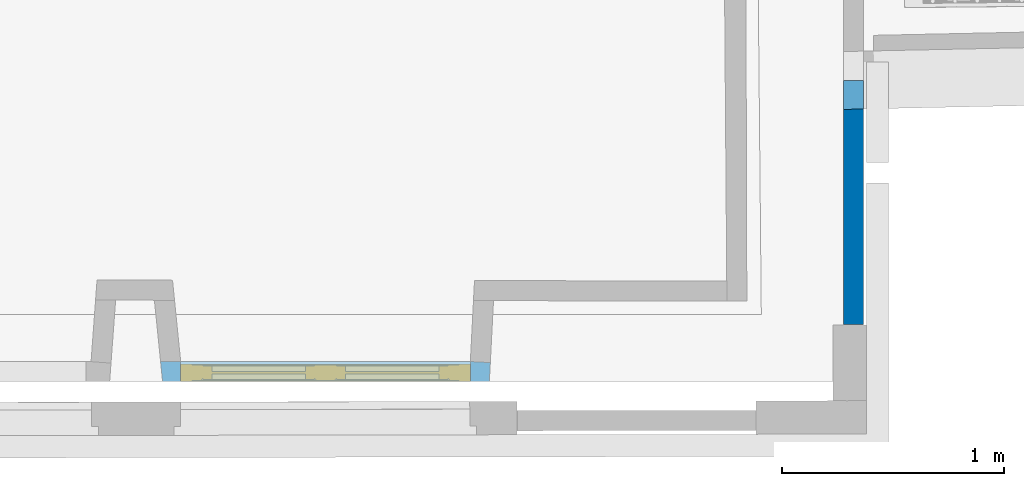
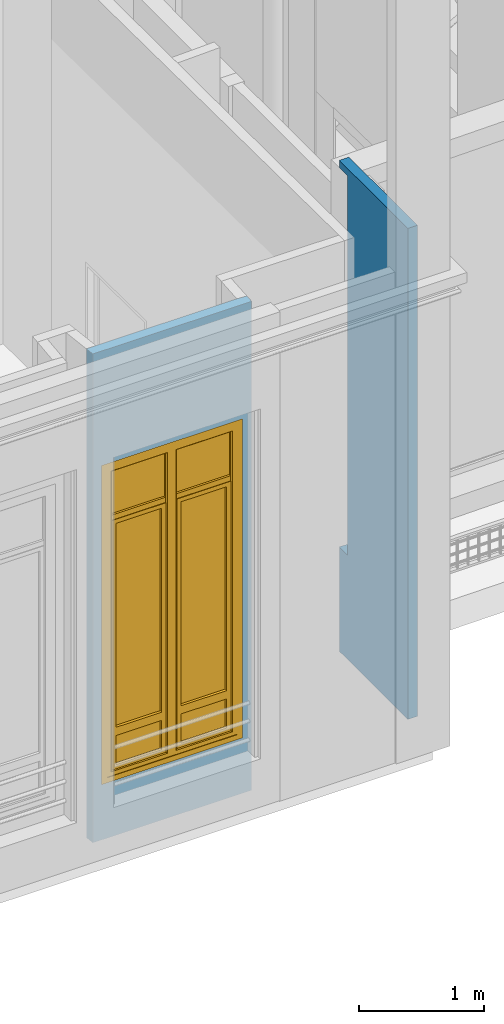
# One storey, part 54 of 97: 1 wall, 1 window, 1 opening, plus 1 element that does not belong to this part.
"""IFC2X3 building model written with IfcOpenShell, lengths in centimetres."""

from ifc_helpers import new_model, entity, si_unit, converted_unit, direction, frame, origin, origin_with_axes, place, context, subcontext, project, spatial, polyline, outline, extrude, faceted_brep, shape, source, transform, mapped, material, material_list, layer, layer_set, layer_usage, type_object, element, fill, save


model = new_model("IFC2X3")

# Units and contexts
model_context = context("Model", 3, precision=0.0001, world=origin(), true_north=direction((0.225632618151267, 0.974212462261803, 0.0)))
body_context = subcontext(model_context, "Body", "Model", "MODEL_VIEW")
footprint_context = subcontext(model_context, "FootPrint", "Model", "MODEL_VIEW")
profile_context = subcontext(model_context, "Profile", "Model", "MODEL_VIEW")
ifc_project = project(units=[si_unit("LENGTHUNIT", "METRE", prefix="CENTI"), si_unit("AREAUNIT", "SQUARE_METRE", prefix="CENTI"), si_unit("VOLUMEUNIT", "CUBIC_METRE", prefix="CENTI"), converted_unit("PLANEANGLEUNIT", "DEGREE", entity("IfcRatioMeasure", 0.0174532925), si_unit("PLANEANGLEUNIT", "RADIAN"), dimensions=[0, 0, 0, 0, 0, 0, 0])], contexts=[model_context])

# Site, building, storey
site_placement = place(None, origin_with_axes())
site = spatial("IfcSite", under=ifc_project, at=site_placement, Name="Default Site", CompositionType="ELEMENT")
building_placement = place(site_placement, origin_with_axes())
building = spatial("IfcBuilding", under=site, at=building_placement, Name="Default Building", CompositionType="ELEMENT")
storey_placement = place(building_placement, origin_with_axes())
storey = spatial("IfcBuildingStorey", under=building, at=storey_placement, Name="Rez-de-chaussée", CompositionType="ELEMENT", Elevation=0.0)

# Wall
ifc_material_1 = material(Name="<aucun>")
ifc_layer = layer(ifc_material_1, 9.0)
ifc_layer_set = layer_set([ifc_layer], Name="default")
ifc_layer_usage_1 = layer_usage(ifc_layer_set, "AXIS2", "POSITIVE", -4.5)
wall_type_1 = type_object("IfcWallType", Name="default 90", PredefinedType="NOTDEFINED", material=ifc_layer_set)
wall_1_placement = place(storey_placement, frame((889.048536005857, -999.633742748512, -1.99999999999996), z_axis=(0.0, 0.0, 1.0), x_axis=(-0.000205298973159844, 0.999999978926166, 0.0)))
element("IfcWall", 1, at=wall_1_placement, inside=storey, type_object=wall_type_1, material=ifc_layer_usage_1, Name="Enveloppe 531419", context=body_context, shape_type="Brep", body=[
    faceted_brep([(109.903833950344, 4.50000631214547, 4.47034409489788e-08), (96.8065474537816, 4.50000631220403, 4.47034409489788e-08), (96.8065474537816, 4.50000631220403, 102.0), (109.903833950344, 4.50000631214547, 102.0), (96.8065474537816, 4.50002488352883, 4.47034409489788e-08), (0.0959588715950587, 4.50002488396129, 4.47034409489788e-08), (0.0959588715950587, 4.50002488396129, 479.80818939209), (96.8065474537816, 4.50002488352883, 479.80818939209), (96.8065474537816, 4.50002488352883, 472.795345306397), (96.8065474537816, 4.50002488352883, 102.0), (109.903833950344, 4.50000631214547, 472.795345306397), (96.8065474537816, 4.50000631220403, 472.795345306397), (96.8065474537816, 4.50000631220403, 479.80818939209), (109.903833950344, 4.50000631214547, 479.80818939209), (96.9954346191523, -4.50002934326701, 4.47034409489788e-08), (109.903893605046, -4.50002934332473, 4.47034409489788e-08), (109.903893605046, -4.50002934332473, 102.0), (96.9954346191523, -4.50002934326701, 102.0), (0.0960185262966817, -4.49997241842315, 4.47034409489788e-08), (96.9954346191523, -4.49997241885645, 4.47034409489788e-08), (96.9954346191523, -4.49997241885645, 102.0), (96.9954346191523, -4.49997241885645, 472.795345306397), (96.9954346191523, -4.49997241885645, 479.80818939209), (0.0960185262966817, -4.49997241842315, 479.80818939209), (96.9954346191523, -4.50002934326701, 472.795345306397), (109.903893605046, -4.50002934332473, 472.795345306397), (109.903893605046, -4.50002934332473, 479.80818939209), (99.2259835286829, -4.50002934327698, 479.80818939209), (96.9954346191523, -4.50002934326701, 479.80818939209), (109.903893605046, -4.50000914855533, 4.47034409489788e-08), (96.8224139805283, 3.7440439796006, 4.47034409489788e-08), (109.903853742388, 3.66735324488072, 4.47034409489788e-08), (109.903853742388, 3.66735324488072, 102.0), (96.8224139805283, 3.7440439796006, 102.0), (109.903893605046, -4.50000914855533, 102.0), (109.903893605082, 3.66735324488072, 4.47034409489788e-08), (109.903893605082, 3.66735324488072, 102.0), (109.903853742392, 4.50000631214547, 4.47034409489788e-08), (109.903853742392, 4.50000631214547, 102.0), (0.0959886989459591, 3.53119272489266e-05, 4.47034409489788e-08), (0.1212877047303, 4.31054275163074, 4.47034409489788e-08), (96.8224139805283, 3.7440439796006, 479.80818939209), (0.1212877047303, 4.31054275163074, 479.80818939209), (0.0959886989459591, 3.53119272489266e-05, 479.80818939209), (0.0959886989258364, -4.49997241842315, 4.47034409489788e-08), (0.0959886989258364, -4.49997241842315, 479.80818939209), (96.8224139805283, 3.7440439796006, 472.795345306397), (96.9954319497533, -4.50002939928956, 472.795345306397), (96.9954319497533, -4.50002939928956, 102.0), (0.0960153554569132, 4.31064330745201, 4.47034409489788e-08), (0.0959588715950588, 4.50004304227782, 4.47034409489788e-08), (0.0959588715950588, 4.50004304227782, 479.80818939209), (0.0960153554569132, 4.31064330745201, 479.80818939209), (0.0959588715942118, 4.31064330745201, 4.47034409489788e-08), (0.0959588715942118, 4.31064330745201, 479.80818939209), (96.8224131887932, 3.74404396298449, 472.795345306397), (96.8224131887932, 3.74404396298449, 102.0), (0.0960153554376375, 3.53119272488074e-05, 4.47034409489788e-08), (0.0960153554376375, 3.53119272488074e-05, 479.80818939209), (109.903893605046, -4.50000914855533, 472.795345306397), (109.903853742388, 3.66735324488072, 472.795345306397), (109.903853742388, 3.66735324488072, 479.80818939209), (109.903893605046, -4.50000914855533, 479.80818939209), (109.903893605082, 3.66735324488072, 472.795345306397), (109.903893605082, 3.66735324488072, 479.80818939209), (109.903893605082, 3.51371631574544, 479.80818939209), (109.903853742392, 4.50000631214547, 472.795345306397), (109.903853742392, 4.50000631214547, 479.80818939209)], [[[0, 1, 2, 3]], [[4, 5, 6, 7, 8, 9]], [[10, 11, 12, 13]], [[14, 15, 16, 17]], [[18, 19, 20, 21, 22, 23]], [[24, 25, 26, 27, 28]], [[29, 14, 30, 31]], [[32, 33, 17, 34]], [[29, 35, 36, 34]], [[4, 0, 31, 30]], [[33, 32, 3, 9]], [[31, 37, 38, 32]], [[18, 39, 40, 30, 14]], [[28, 41, 42, 43, 23]], [[39, 44, 45, 43]], [[46, 47, 48, 33]], [[4, 30, 40, 49, 50]], [[51, 52, 42, 41, 7]], [[50, 53, 54, 51]], [[8, 55, 56, 9]], [[40, 39, 49]], [[52, 43, 42]], [[49, 57, 58, 52]], [[59, 24, 46, 60]], [[61, 41, 28, 62]], [[59, 63, 64, 65, 62]], [[8, 10, 60, 46]], [[41, 61, 13, 7]], [[60, 66, 67, 61]]]),
])

# Wall, opening, window
ifc_layer_usage_2 = layer_usage(ifc_layer_set, "AXIS2", "POSITIVE", -4.5)
wall_type_2 = type_object("IfcWallType", Name="default 90", PredefinedType="NOTDEFINED", material=ifc_layer_set)
wall_2_placement = place(storey_placement, frame((582.599325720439, -1020.69324960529, 0.0128503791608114), z_axis=(0.0, 0.0, 1.0), x_axis=(0.999999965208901, 0.000263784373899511, 0.0)))
wall_2 = element("IfcWallStandardCase", 2, at=wall_2_placement, inside=storey, type_object=wall_type_2, material=ifc_layer_usage_2, Name="Enveloppe 767132", context=body_context, shape_type="SweptSolid", body=[
    extrude(outline(polyline([(-4.97437622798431, 4.49999999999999), (-4.07086216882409, -4.50000000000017), (142.810565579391, -4.50000000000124), (143.251378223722, 4.03583522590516), (134.263355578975, 4.49999999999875), (-4.97437622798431, 4.49999999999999)])), origin_with_axes(), (0.0, 0.0, 1.0), 477.795358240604),
])
opening_placement = place(wall_2_placement, frame((4.07086216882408, 0.0, 54.0313409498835), z_axis=(0.0, 0.0, 1.0), x_axis=(1.0, -9.59209925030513e-15, 0.0)))
cartesian_point_1 = entity("IfcCartesianPoint", [0.0, 0.0, 312.0])
cartesian_point_2 = entity("IfcCartesianPoint", [130.192493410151, 4.49999999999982])
opening = element("IfcOpeningElement", 3, at=opening_placement, cuts=wall_2, Name="4294966462_11", ObjectType="Opening", shapes=[
    shape(body_context, "Body", "SweptSolid", [extrude(outline(polyline([(0.0, 312.0), (0.0, -1.11022302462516e-14), (130.192493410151, -1.11022302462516e-14), (130.192493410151, 312.0), (0.0, 312.0)])), frame((0.0, 14.5, 0.0), z_axis=(0.0, -1.0, 0.0), x_axis=(1.0, 0.0, 0.0)), (0.0, 0.0, 1.0), 29.0)]),
    shape(profile_context, "Profile", "GeometricCurveSet", [entity("IfcGeometricCurveSet", [entity("IfcPolyline", [cartesian_point_1, entity("IfcCartesianPoint", [0.0, 0.0, -1.11022302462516e-14]), entity("IfcCartesianPoint", [130.192493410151, -1.77635683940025e-13, -1.11022302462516e-14]), entity("IfcCartesianPoint", [130.192493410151, -1.77635683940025e-13, 312.0]), cartesian_point_1])])]),
    shape(footprint_context, "FootPrint", "GeometricCurveSet", [entity("IfcGeometricCurveSet", [entity("IfcPolyline", [cartesian_point_2, entity("IfcCartesianPoint", [0.0, 4.49999999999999]), entity("IfcCartesianPoint", [8.88178419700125e-14, -4.50000000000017]), entity("IfcCartesianPoint", [130.192493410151, -4.49999999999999]), cartesian_point_2])])]),
])
ifc_material_2 = material(Name="Transparent")
ifc_material_3 = material(Name="Blanc trafic")
ifc_material_4 = material(Name="Aluminium satiné")
ifc_material_5 = material(Name="Blanc trafic")
ifc_material_list = material_list([ifc_material_2, ifc_material_3, ifc_material_4, ifc_material_5])
window_style = type_object("IfcWindowStyle", Name="FN[R] 2VB[2V] MM", ConstructionType="NOTDEFINED", OperationType="NOTDEFINED", ParameterTakesPrecedence=False, Sizeable=False, material=ifc_material_list)
shared_shape = source(origin_with_axes(), body_context, "Body", "Brep", [
    faceted_brep([(-60.0962460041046, 306.99999332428, -3.99999991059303), (-60.0962460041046, 306.99999332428, 3.99999991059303), (-60.0962460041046, 5.00000007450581, 3.99999991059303), (-60.0962460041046, 5.00000007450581, -3.99999991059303), (-65.0962471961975, 311.999988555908, 3.99999991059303), (-65.0962471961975, 0.0, 3.99999991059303), (-65.0962471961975, 311.999988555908, -3.99999991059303), (-65.0962471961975, 0.0, -3.99999991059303), (60.0962460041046, 5.00000007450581, 3.99999991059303), (60.0962460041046, 5.00000007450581, -3.99999991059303), (65.0962471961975, 0.0, 3.99999991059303), (65.0962471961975, 0.0, -3.99999991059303), (60.0962460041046, 306.99999332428, 3.99999991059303), (60.0962460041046, 306.99999332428, -3.99999991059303), (65.0962471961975, 311.999988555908, 3.99999991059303), (65.0962471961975, 311.999988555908, -3.99999991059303)], [[[0, 1, 2, 3]], [[1, 4, 5, 2]], [[4, 6, 7, 5]], [[6, 0, 3, 7]], [[3, 2, 8, 9]], [[2, 5, 10, 8]], [[5, 7, 11, 10]], [[7, 3, 9, 11]], [[9, 8, 12, 13]], [[8, 10, 14, 12]], [[10, 11, 15, 14]], [[11, 9, 13, 15]], [[13, 12, 1, 0]], [[12, 14, 4, 1]], [[14, 15, 6, 4]], [[15, 13, 0, 6]]]),
    faceted_brep([(-56.0962438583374, 302.999997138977, -3.50000001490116), (-55.0962443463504, 301.999998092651, -2.50000050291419), (-55.0962443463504, 10.0000001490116, -2.50000050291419), (-56.0962438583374, 9.00000035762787, -3.50000001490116), (-55.0962448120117, 301.999998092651, -2.5000000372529), (-55.0962448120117, 301.999998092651, 3.50000001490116), (-55.0962448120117, 10.0000001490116, 3.50000001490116), (-55.0962448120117, 10.0000001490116, -2.5000000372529), (-60.0962460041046, 306.99999332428, 3.50000001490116), (-60.0962460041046, 5.00000007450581, 3.50000001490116), (-60.0962460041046, 306.99999332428, -3.50000001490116), (-60.0962460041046, 5.00000007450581, -3.50000001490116), (-55.0962448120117, 10.0000002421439, -2.50000013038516), (-5.00000007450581, 10.0000002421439, -2.50000013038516), (-3.99999991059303, 9.00000035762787, -3.50000001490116), (-5.00000007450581, 10.0000001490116, 3.50000001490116), (-5.00000007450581, 10.0000001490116, -2.5000000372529), (-3.33066907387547e-14, 5.00000007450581, 3.50000001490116), (-3.33066907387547e-14, 5.00000007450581, -3.50000001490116), (-4.99999998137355, 10.0000001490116, -2.49999994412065), (-4.99999998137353, 301.999998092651, -2.49999994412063), (-3.99999991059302, 302.999997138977, -3.50000001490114), (-5.00000007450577, 301.999998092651, 3.50000001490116), (-5.00000007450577, 301.999998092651, -2.5000000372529), (-1.11022302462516e-14, 306.99999332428, 3.50000001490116), (-5.00000007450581, 301.999998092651, 3.50000001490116), (-1.11022308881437e-14, 306.99999332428, -3.50000001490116), (-1.11022308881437e-14, 306.99999332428, 3.50000001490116), (-3.99999991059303, 302.999997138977, -3.50000001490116), (-1.11022302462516e-14, 306.99999332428, -3.50000001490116), (-5.00000007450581, 301.99999762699, -2.5000005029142), (-55.0962448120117, 301.99999762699, -2.5000005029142), (-5.00000007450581, 301.999998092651, -2.5000000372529)], [[[0, 1, 2, 3]], [[4, 5, 6, 7]], [[5, 8, 9, 6]], [[8, 10, 11, 9]], [[10, 0, 3, 11]], [[3, 12, 13, 14]], [[7, 6, 15, 16]], [[6, 9, 17, 15]], [[9, 11, 18, 17]], [[11, 3, 14, 18]], [[14, 19, 20, 21]], [[16, 15, 22, 23]], [[15, 17, 24, 25]], [[17, 18, 26, 27]], [[18, 14, 28, 29]], [[28, 30, 31, 0]], [[32, 25, 5, 4]], [[25, 24, 8, 5]], [[24, 29, 10, 8]], [[29, 28, 0, 10]]]),
    faceted_brep([(-5.00000007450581, 301.999998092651, -0.499999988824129), (-5.00000007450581, 258.949995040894, -0.499999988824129), (-55.0962448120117, 258.949995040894, -0.499999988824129), (-55.0962448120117, 301.999998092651, -0.499999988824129), (-55.0962448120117, 301.999998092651, 0.499999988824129), (-55.0962448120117, 258.949995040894, 0.499999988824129), (-5.00000007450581, 258.949995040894, 0.499999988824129), (-5.00000007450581, 301.999998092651, 0.499999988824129)], [[[0, 1, 2, 3]], [[4, 5, 6, 7]], [[3, 2, 5, 4]], [[2, 1, 6, 5]], [[1, 0, 7, 6]], [[0, 3, 4, 7]]]),
    faceted_brep([(-5.00000007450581, 253.949999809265, 2.5000000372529), (-5.00000007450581, 253.949999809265, -2.5000000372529), (-5.00000007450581, 258.949995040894, -2.5000000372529), (-5.00000007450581, 258.949995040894, 2.5000000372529), (-55.0962448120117, 258.949995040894, 2.5000000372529), (-55.0962448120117, 258.949995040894, -2.5000000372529), (-55.0962448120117, 253.949999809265, -2.5000000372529), (-55.0962448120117, 253.949999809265, 2.5000000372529)], [[[0, 1, 2, 3]], [[4, 5, 6, 7]], [[3, 2, 5, 4]], [[2, 1, 6, 5]], [[1, 0, 7, 6]], [[0, 3, 4, 7]]]),
    faceted_brep([(-51.096248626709, 249.950003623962, -2.99999993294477), (-51.096248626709, 249.950003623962, 2.99999993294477), (-51.096248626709, 50.5924999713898, 2.99999993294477), (-51.096248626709, 50.5924999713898, -2.99999993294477), (-55.0962448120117, 253.949999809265, 2.99999993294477), (-55.0962448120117, 46.5925008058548, 2.99999993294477), (-55.0962448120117, 253.949999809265, -2.99999993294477), (-55.0962448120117, 46.5925008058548, -2.99999993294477), (-9.00000035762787, 50.5924999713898, 2.99999993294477), (-9.00000035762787, 50.5924999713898, -2.99999993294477), (-5.00000007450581, 46.5925008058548, 2.99999993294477), (-5.00000007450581, 46.5925008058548, -2.99999993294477), (-9.00000035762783, 249.950003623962, 2.99999993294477), (-9.00000035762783, 249.950003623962, -2.99999993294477), (-5.00000007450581, 253.949999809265, 2.99999993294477), (-9.00000035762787, 249.950003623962, 2.99999993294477), (-5.00000007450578, 253.949999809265, -2.99999993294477), (-5.00000007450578, 253.949999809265, 2.99999993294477), (-9.00000035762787, 249.950003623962, -2.99999993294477), (-5.00000007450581, 253.949999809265, -2.99999993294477)], [[[0, 1, 2, 3]], [[1, 4, 5, 2]], [[4, 6, 7, 5]], [[6, 0, 3, 7]], [[3, 2, 8, 9]], [[2, 5, 10, 8]], [[5, 7, 11, 10]], [[7, 3, 9, 11]], [[9, 8, 12, 13]], [[8, 10, 14, 15]], [[10, 11, 16, 17]], [[11, 9, 18, 19]], [[18, 15, 1, 0]], [[15, 14, 4, 1]], [[14, 19, 6, 4]], [[19, 18, 0, 6]]]),
    faceted_brep([(-9.00000035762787, 249.950003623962, -0.499999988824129), (-9.00000035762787, 50.5924999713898, -0.499999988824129), (-51.096248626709, 50.5924999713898, -0.499999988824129), (-51.096248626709, 249.950003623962, -0.499999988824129), (-51.096248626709, 249.950003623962, 0.499999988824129), (-51.096248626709, 50.5924999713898, 0.499999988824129), (-9.00000035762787, 50.5924999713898, 0.499999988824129), (-9.00000035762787, 249.950003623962, 0.499999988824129), (-9.00000035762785, 249.950003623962, -0.499999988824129), (-9.00000035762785, 249.950003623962, 0.499999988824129)], [[[0, 1, 2, 3]], [[4, 5, 6, 7]], [[3, 2, 5, 4]], [[2, 1, 6, 5]], [[1, 8, 9, 6]], [[0, 3, 4, 7]]]),
    faceted_brep([(-51.096248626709, 42.5924986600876, -2.99999993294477), (-51.096248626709, 42.5924986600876, 2.99999993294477), (-51.096248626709, 14.0000000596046, 2.99999993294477), (-51.096248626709, 14.0000000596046, -2.99999993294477), (-55.0962448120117, 46.5925008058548, 2.99999993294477), (-55.0962448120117, 10.0000001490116, 2.99999993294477), (-55.0962448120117, 46.5925008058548, -2.99999993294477), (-55.0962448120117, 10.0000001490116, -2.99999993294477), (-9.00000035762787, 14.0000000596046, 2.99999993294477), (-9.00000035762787, 14.0000000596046, -2.99999993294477), (-5.00000007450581, 10.0000001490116, 2.99999993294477), (-5.00000007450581, 10.0000001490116, -2.99999993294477), (-9.00000035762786, 42.5924986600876, 2.99999993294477), (-9.00000035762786, 42.5924986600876, -2.99999993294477), (-5.00000007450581, 46.5925008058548, 2.99999993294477), (-9.00000035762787, 42.5924986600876, 2.99999993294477), (-5.00000007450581, 46.5925008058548, -2.99999993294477), (-9.00000035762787, 42.5924986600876, -2.99999993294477)], [[[0, 1, 2, 3]], [[1, 4, 5, 2]], [[4, 6, 7, 5]], [[6, 0, 3, 7]], [[3, 2, 8, 9]], [[2, 5, 10, 8]], [[5, 7, 11, 10]], [[7, 3, 9, 11]], [[9, 8, 12, 13]], [[8, 10, 14, 15]], [[10, 11, 16, 14]], [[11, 9, 17, 16]], [[17, 15, 1, 0]], [[15, 14, 4, 1]], [[14, 16, 6, 4]], [[16, 17, 0, 6]]]),
    faceted_brep([(-9.00000035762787, 42.5924986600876, -0.499999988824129), (-9.00000035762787, 14.0000000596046, -0.499999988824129), (-51.096248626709, 14.0000000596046, -0.499999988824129), (-51.096248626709, 42.5924986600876, -0.499999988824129), (-51.096248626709, 42.5924986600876, 0.499999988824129), (-51.096248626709, 14.0000000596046, 0.499999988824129), (-9.00000035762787, 14.0000000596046, 0.499999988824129), (-9.00000035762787, 42.5924986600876, 0.499999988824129)], [[[0, 1, 2, 3]], [[4, 5, 6, 7]], [[3, 2, 5, 4]], [[2, 1, 6, 5]], [[1, 0, 7, 6]], [[0, 3, 4, 7]]]),
    faceted_brep([(3.99999991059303, 302.999997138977, -3.50000001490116), (4.99999998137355, 301.999998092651, -2.49999994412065), (4.99999998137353, 10.0000001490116, -2.49999994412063), (3.99999991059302, 9.00000035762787, -3.50000001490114), (5.00000007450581, 301.999998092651, -2.5000000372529), (5.00000007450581, 301.999998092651, 3.50000001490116), (5.00000007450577, 10.0000001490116, 3.50000001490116), (5.00000007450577, 10.0000001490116, -2.5000000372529), (-1.11022302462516e-14, 306.99999332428, 3.50000001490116), (-3.33066907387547e-14, 5.00000007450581, 3.50000001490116), (5.00000007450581, 10.0000001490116, 3.50000001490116), (-1.11022302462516e-14, 306.99999332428, -3.50000001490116), (-3.33066900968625e-14, 5.00000007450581, -3.50000001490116), (-3.33066900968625e-14, 5.00000007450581, 3.50000001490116), (3.99999991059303, 9.00000035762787, -3.50000001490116), (-3.33066907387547e-14, 5.00000007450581, -3.50000001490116), (5.00000007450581, 10.0000002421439, -2.50000013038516), (55.0962448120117, 10.0000002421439, -2.50000013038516), (56.0962438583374, 9.00000035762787, -3.50000001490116), (5.00000007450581, 10.0000001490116, -2.5000000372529), (55.0962448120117, 10.0000001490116, 3.50000001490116), (55.0962448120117, 10.0000001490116, -2.5000000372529), (60.0962460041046, 5.00000007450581, 3.50000001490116), (60.0962460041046, 5.00000007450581, -3.50000001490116), (55.0962443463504, 10.0000001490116, -2.50000050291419), (55.0962443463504, 301.999998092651, -2.50000050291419), (56.0962438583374, 302.999997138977, -3.50000001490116), (55.0962448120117, 301.999998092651, 3.50000001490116), (55.0962448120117, 301.999998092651, -2.5000000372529), (60.0962460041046, 306.99999332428, 3.50000001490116), (60.0962460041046, 306.99999332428, -3.50000001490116), (55.0962448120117, 301.99999762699, -2.5000005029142), (5.00000007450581, 301.99999762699, -2.50000050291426), (3.99999991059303, 302.999997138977, -3.50000001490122)], [[[0, 1, 2, 3]], [[4, 5, 6, 7]], [[5, 8, 9, 10]], [[8, 11, 12, 13]], [[11, 0, 14, 15]], [[14, 16, 17, 18]], [[19, 10, 20, 21]], [[10, 9, 22, 20]], [[9, 15, 23, 22]], [[15, 14, 18, 23]], [[18, 24, 25, 26]], [[21, 20, 27, 28]], [[20, 22, 29, 27]], [[22, 23, 30, 29]], [[23, 18, 26, 30]], [[26, 31, 32, 33]], [[28, 27, 5, 4]], [[27, 29, 8, 5]], [[29, 30, 11, 8]], [[30, 26, 0, 11]]]),
    faceted_brep([(4.50000017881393, 158.000004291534, 3.50000001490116), (4.50000017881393, 153.999996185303, 3.50000001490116), (0.499999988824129, 153.999996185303, 3.50000001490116), (0.499999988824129, 158.000004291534, 3.50000001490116), (0.499999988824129, 158.000004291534, 4.30000014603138), (0.499999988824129, 153.999996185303, 4.30000014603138), (4.50000017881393, 153.999996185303, 4.30000014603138), (4.50000017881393, 158.000004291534, 4.30000014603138)], [[[0, 1, 2, 3]], [[4, 5, 6, 7]], [[3, 2, 5, 4]], [[2, 1, 6, 5]], [[1, 0, 7, 6]], [[0, 3, 4, 7]]]),
    faceted_brep([(3.24999988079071, 156.500005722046, 4.30000014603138), (3.24999988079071, 155.499994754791, 4.30000014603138), (1.75000000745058, 155.499994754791, 4.30000014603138), (1.75000000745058, 156.500005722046, 4.30000014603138), (1.75000000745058, 156.500005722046, 8.29999968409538), (1.75000000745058, 155.500000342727, 7.29999430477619), (3.24999988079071, 155.500000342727, 7.29999430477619), (3.24999988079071, 156.500005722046, 8.29999968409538), (1.75000000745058, 155.499994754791, 7.29999989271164), (3.24999988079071, 155.499994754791, 7.29999989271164)], [[[0, 1, 2, 3]], [[4, 5, 6, 7]], [[3, 2, 8, 4]], [[2, 1, 9, 8]], [[1, 0, 7, 9]], [[0, 3, 4, 7]]]),
    faceted_brep([(3.24999988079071, 156.500005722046, 8.29999968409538), (3.24999988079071, 155.500000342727, 7.29999430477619), (1.75000000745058, 155.500000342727, 7.29999430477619), (1.75000000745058, 156.500005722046, 8.29999968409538), (1.75000000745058, 143.499994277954, 8.29999968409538), (1.75000000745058, 143.499994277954, 7.29999989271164), (3.24999988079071, 143.499994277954, 7.29999989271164), (3.24999988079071, 143.499994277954, 8.29999968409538), (1.75000000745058, 155.499994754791, 7.29999989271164), (3.24999988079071, 155.499994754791, 7.29999989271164)], [[[0, 1, 2, 3]], [[4, 5, 6, 7]], [[3, 8, 5, 4]], [[8, 9, 6, 5]], [[9, 0, 7, 6]], [[0, 3, 4, 7]]]),
    faceted_brep([(55.0962448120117, 301.999998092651, -0.499999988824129), (55.0962448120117, 258.949995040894, -0.499999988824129), (5.00000007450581, 258.949995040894, -0.499999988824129), (5.00000007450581, 301.999998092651, -0.499999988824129), (5.00000007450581, 301.999998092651, 0.499999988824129), (5.00000007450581, 258.949995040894, 0.499999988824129), (55.0962448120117, 258.949995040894, 0.499999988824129), (55.0962448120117, 301.999998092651, 0.499999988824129), (5.0000000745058, 258.949995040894, -0.499999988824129), (5.0000000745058, 258.949995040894, 0.499999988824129)], [[[0, 1, 2, 3]], [[4, 5, 6, 7]], [[3, 8, 9, 4]], [[2, 1, 6, 5]], [[1, 0, 7, 6]], [[0, 3, 4, 7]]]),
    faceted_brep([(55.0962448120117, 253.949999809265, 2.5000000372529), (55.0962448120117, 253.949999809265, -2.5000000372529), (55.0962448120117, 258.949995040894, -2.5000000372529), (55.0962448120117, 258.949995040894, 2.5000000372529), (5.00000007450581, 258.949995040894, 2.5000000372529), (5.00000007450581, 258.949995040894, -2.5000000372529), (5.00000007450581, 253.949999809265, -2.5000000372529), (5.00000007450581, 253.949999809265, 2.5000000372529)], [[[0, 1, 2, 3]], [[4, 5, 6, 7]], [[3, 2, 5, 4]], [[2, 1, 6, 5]], [[1, 0, 7, 6]], [[0, 3, 4, 7]]]),
    faceted_brep([(9.00000035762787, 249.950003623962, -2.99999993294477), (9.00000035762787, 249.950003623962, 2.99999993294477), (9.00000035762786, 50.5924999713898, 2.99999993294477), (9.00000035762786, 50.5924999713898, -2.99999993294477), (5.00000007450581, 253.949999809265, 2.99999993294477), (5.00000007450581, 46.5925008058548, 2.99999993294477), (9.00000035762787, 50.5924999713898, 2.99999993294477), (5.00000007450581, 253.949999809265, -2.99999993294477), (5.0000000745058, 46.5925008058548, -2.99999993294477), (5.0000000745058, 46.5925008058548, 2.99999993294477), (9.00000035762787, 50.5924999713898, -2.99999993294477), (5.00000007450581, 46.5925008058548, -2.99999993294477), (51.096248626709, 50.5924999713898, 2.99999993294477), (51.096248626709, 50.5924999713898, -2.99999993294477), (55.0962448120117, 46.5925008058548, 2.99999993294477), (55.0962448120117, 46.5925008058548, -2.99999993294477), (51.096248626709, 249.950003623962, 2.99999993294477), (51.096248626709, 249.950003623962, -2.99999993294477), (55.0962448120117, 253.949999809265, 2.99999993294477), (55.0962448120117, 253.949999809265, -2.99999993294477)], [[[0, 1, 2, 3]], [[1, 4, 5, 6]], [[4, 7, 8, 9]], [[7, 0, 10, 11]], [[10, 6, 12, 13]], [[6, 5, 14, 12]], [[5, 11, 15, 14]], [[11, 10, 13, 15]], [[13, 12, 16, 17]], [[12, 14, 18, 16]], [[14, 15, 19, 18]], [[15, 13, 17, 19]], [[17, 16, 1, 0]], [[16, 18, 4, 1]], [[18, 19, 7, 4]], [[19, 17, 0, 7]]]),
    faceted_brep([(51.096248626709, 249.950003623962, -0.499999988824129), (51.096248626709, 50.5924999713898, -0.499999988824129), (9.00000035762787, 50.5924999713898, -0.499999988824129), (9.00000035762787, 249.950003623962, -0.499999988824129), (9.00000035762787, 249.950003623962, 0.499999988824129), (9.00000035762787, 50.5924999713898, 0.499999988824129), (51.096248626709, 50.5924999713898, 0.499999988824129), (51.096248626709, 249.950003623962, 0.499999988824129), (9.00000035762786, 50.5924999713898, -0.499999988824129), (9.00000035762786, 50.5924999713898, 0.499999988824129)], [[[0, 1, 2, 3]], [[4, 5, 6, 7]], [[3, 8, 9, 4]], [[2, 1, 6, 5]], [[1, 0, 7, 6]], [[0, 3, 4, 7]]]),
    faceted_brep([(9.00000035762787, 42.5924986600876, -2.99999993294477), (9.00000035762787, 42.5924986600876, 2.99999993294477), (9.00000035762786, 14.0000000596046, 2.99999993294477), (9.00000035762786, 14.0000000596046, -2.99999993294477), (5.00000007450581, 46.5925008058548, 2.99999993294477), (5.00000007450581, 10.0000001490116, 2.99999993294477), (9.00000035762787, 14.0000000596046, 2.99999993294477), (5.00000007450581, 46.5925008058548, -2.99999993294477), (5.00000007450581, 10.0000001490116, -2.99999993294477), (9.00000035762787, 14.0000000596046, -2.99999993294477), (51.096248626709, 14.0000000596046, 2.99999993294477), (51.096248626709, 14.0000000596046, -2.99999993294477), (55.0962448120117, 10.0000001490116, 2.99999993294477), (55.0962448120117, 10.0000001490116, -2.99999993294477), (51.096248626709, 42.5924986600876, 2.99999993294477), (51.096248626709, 42.5924986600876, -2.99999993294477), (55.0962448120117, 46.5925008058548, 2.99999993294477), (55.0962448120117, 46.5925008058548, -2.99999993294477)], [[[0, 1, 2, 3]], [[1, 4, 5, 6]], [[4, 7, 8, 5]], [[7, 0, 9, 8]], [[9, 6, 10, 11]], [[6, 5, 12, 10]], [[5, 8, 13, 12]], [[8, 9, 11, 13]], [[11, 10, 14, 15]], [[10, 12, 16, 14]], [[12, 13, 17, 16]], [[13, 11, 15, 17]], [[15, 14, 1, 0]], [[14, 16, 4, 1]], [[16, 17, 7, 4]], [[17, 15, 0, 7]]]),
    faceted_brep([(51.096248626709, 42.5924986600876, -0.499999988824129), (51.096248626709, 14.0000000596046, -0.499999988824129), (9.00000035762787, 14.0000000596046, -0.499999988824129), (9.00000035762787, 42.5924986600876, -0.499999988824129), (9.00000035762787, 42.5924986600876, 0.499999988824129), (9.00000035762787, 14.0000000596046, 0.499999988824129), (51.096248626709, 14.0000000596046, 0.499999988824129), (51.096248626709, 42.5924986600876, 0.499999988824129), (9.00000035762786, 14.0000000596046, -0.499999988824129), (9.00000035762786, 14.0000000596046, 0.499999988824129)], [[[0, 1, 2, 3]], [[4, 5, 6, 7]], [[3, 8, 9, 4]], [[2, 1, 6, 5]], [[1, 0, 7, 6]], [[0, 3, 4, 7]]]),
])
window_placement = place(opening_placement, frame((0.0, -4.5, 0.0), z_axis=(0.0, 0.0, 1.0), x_axis=(1.0, 0.0, 0.0)))
window = element("IfcWindow", 4, at=window_placement, inside=storey, type_object=window_style, material=ifc_material_list, Name="Fenêtre 23822", OverallHeight=312.0, OverallWidth=130.192493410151, context=body_context, shape_type="MappedRepresentation", body=[
    mapped(shared_shape, transform((65.0962467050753, 4.00000000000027, 1.11022302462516e-14), x_axis=(-1.0, 0.0, 0.0), y_axis=(0.0, 0.0, 1.0), z_axis=(0.0, 1.0, 0.0), scale=1.0, scale2=1.0, scale3=1.0, uniform=False)),
])
fill(opening, window)

save(model, "model.ifc")
